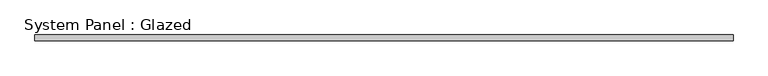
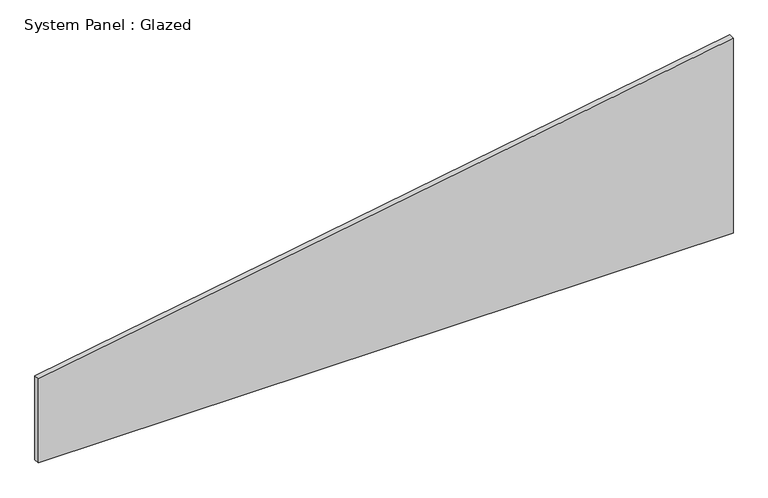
"""IFC4 building model written with IfcOpenShell, lengths in millimetres: plate geometry, System Panel : Glazed."""

from ifc_helpers import new_model, si_unit, frame, origin, place, context, project, spatial, polyline, outline, extrude, source, transform, mapped, element, save


def system_panel_glazed_32f1f321(model_context):
    return source(origin(), model_context, "Body", "SweptSolid", [
        extrude(outline(polyline([(0.0, -1504.95), (0.0, 1504.95), (893.181872, 1504.95), (384.3201557, -1504.95), (0.0, -1504.95)])), frame((0.0, 19.05, 0.0), z_axis=(0.0, 1.0, 0.0), x_axis=(0.0, 0.0, 1.0)), (0.0, 0.0, 1.0), 25.4),
    ])


if __name__ == "__main__":
    model = new_model("IFC4")
    model_context = context("Model", 3, world=origin())
    ifc_project = project(units=[si_unit("LENGTHUNIT", "METRE", prefix="MILLI")], contexts=[model_context])
    site = spatial("IfcSite", under=ifc_project)
    building = spatial("IfcBuilding", under=site)
    placement = place(None, origin())
    system_panel_glazed_shape = system_panel_glazed_32f1f321(model_context)
    element("IfcPlate", 1, ObjectType="System Panel : Glazed", at=placement, inside=building, context=model_context, shape_type="MappedRepresentation", body=[
        mapped(system_panel_glazed_shape, transform((0.0, 0.0, 0.0), x_axis=(1.0, 0.0, 0.0), y_axis=(0.0, 1.0, 0.0), z_axis=(0.0, 0.0, 1.0))),
    ])
    save(model, "model.ifc")
